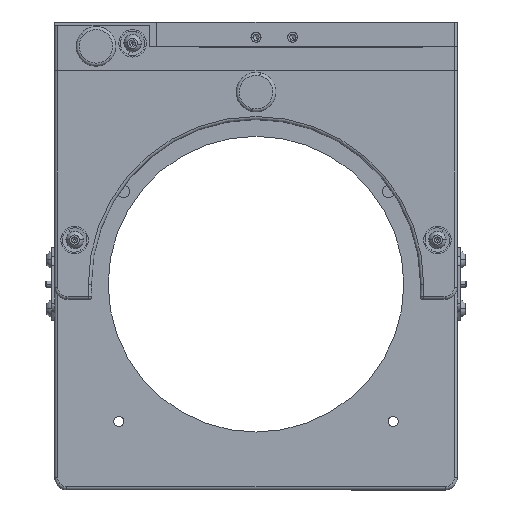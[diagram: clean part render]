
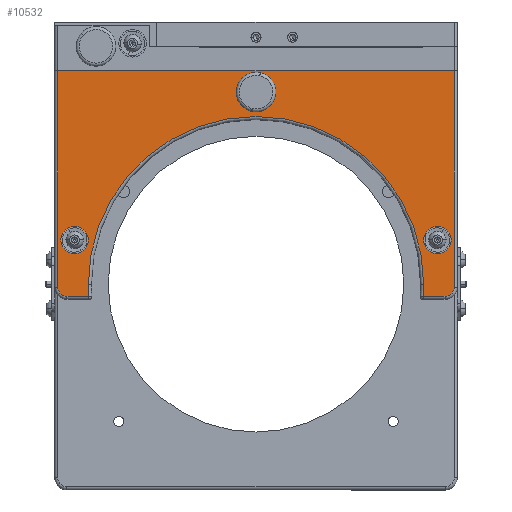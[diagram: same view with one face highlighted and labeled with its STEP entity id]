
A CAD part, front view. The second image highlights one B-rep face of the part: STEP entity #10532.
In plain terms, the highlighted planar face has unit normal (0, -1, 0).
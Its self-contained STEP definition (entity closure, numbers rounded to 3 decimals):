
#259 = DIRECTION ( 'NONE',  ( 0., -1., 0. ) ) ;
#343 = VECTOR ( 'NONE', #15316, 1000. ) ;
#349 = CARTESIAN_POINT ( 'NONE',  ( 60.922, -13.405, -84.393 ) ) ;
#425 = CIRCLE ( 'NONE', #11921, 55. ) ;
#540 = CARTESIAN_POINT ( 'NONE',  ( -54.846, -13.405, -84.393 ) ) ;
#779 = CARTESIAN_POINT ( 'NONE',  ( -1.078, -13.405, -80.393 ) ) ;
#1294 = DIRECTION ( 'NONE',  ( 0., -1., 0. ) ) ;
#1510 = CARTESIAN_POINT ( 'NONE',  ( 62.922, -13.405, -65.893 ) ) ;
#1607 = CARTESIAN_POINT ( 'NONE',  ( -56.078, -13.405, -80.393 ) ) ;
#1638 = CIRCLE ( 'NONE', #23333, 3. ) ;
#2095 = EDGE_CURVE ( 'NONE', #19650, #22156, #8395, .T. ) ;
#2133 = CARTESIAN_POINT ( 'NONE',  ( 63.922, -13.405, -81.393 ) ) ;
#2162 = EDGE_CURVE ( 'NONE', #24219, #6108, #2556, .T. ) ;
#2222 = CARTESIAN_POINT ( 'NONE',  ( 53.776, -13.405, -84.393 ) ) ;
#2311 = DIRECTION ( 'NONE',  ( 1., 0., 0. ) ) ;
#2556 = CIRCLE ( 'NONE', #14636, 4.5 ) ;
#2649 = EDGE_CURVE ( 'NONE', #6108, #24219, #21695, .T. ) ;
#2659 = DIRECTION ( 'NONE',  ( 0., 1., 0. ) ) ;
#2899 = CIRCLE ( 'NONE', #8097, 4.5 ) ;
#3055 = EDGE_LOOP ( 'NONE', ( #6800, #21694, #18617, #7367, #21841, #21663, #17561, #5252, #5986, #22710 ) ) ;
#3140 = ORIENTED_EDGE ( 'NONE', *, *, #2649, .F. ) ;
#3847 = EDGE_CURVE ( 'NONE', #6339, #10008, #2899, .T. ) ;
#3994 = CARTESIAN_POINT ( 'NONE',  ( 58.422, -13.405, -65.893 ) ) ;
#4509 = DIRECTION ( 'NONE',  ( -1., 0., 0. ) ) ;
#4683 = DIRECTION ( 'NONE',  ( 0., -1., 0. ) ) ;
#4873 = CARTESIAN_POINT ( 'NONE',  ( 60.922, -13.405, -84.393 ) ) ;
#4886 = AXIS2_PLACEMENT_3D ( 'NONE', #7450, #5481, #13091 ) ;
#5202 = EDGE_LOOP ( 'NONE', ( #7194, #7067 ) ) ;
#5252 = ORIENTED_EDGE ( 'NONE', *, *, #2095, .T. ) ;
#5481 = DIRECTION ( 'NONE',  ( 0., -1., 0. ) ) ;
#5548 = AXIS2_PLACEMENT_3D ( 'NONE', #7490, #20603, #18851 ) ;
#5650 = VERTEX_POINT ( 'NONE', #1607 ) ;
#5739 = DIRECTION ( 'NONE',  ( 0., -1., 0. ) ) ;
#5986 = ORIENTED_EDGE ( 'NONE', *, *, #22512, .T. ) ;
#6092 = DIRECTION ( 'NONE',  ( -1., 0., 0. ) ) ;
#6108 = VERTEX_POINT ( 'NONE', #23304 ) ;
#6120 = DIRECTION ( 'NONE',  ( 0., 1., 0. ) ) ;
#6210 = CARTESIAN_POINT ( 'NONE',  ( 63.922, -13.405, -10.393 ) ) ;
#6339 = VERTEX_POINT ( 'NONE', #1510 ) ;
#6380 = CIRCLE ( 'NONE', #5548, 4.5 ) ;
#6487 = CARTESIAN_POINT ( 'NONE',  ( -63.078, -13.405, -81.393 ) ) ;
#6605 = EDGE_CURVE ( 'NONE', #9808, #12868, #15639, .T. ) ;
#6675 = FACE_BOUND ( 'NONE', #8994, .T. ) ;
#6800 = ORIENTED_EDGE ( 'NONE', *, *, #17306, .T. ) ;
#7067 = ORIENTED_EDGE ( 'NONE', *, *, #3847, .F. ) ;
#7186 = VERTEX_POINT ( 'NONE', #21642 ) ;
#7194 = ORIENTED_EDGE ( 'NONE', *, *, #16107, .F. ) ;
#7367 = ORIENTED_EDGE ( 'NONE', *, *, #22181, .T. ) ;
#7450 = CARTESIAN_POINT ( 'NONE',  ( 58.422, -13.405, -65.893 ) ) ;
#7490 = CARTESIAN_POINT ( 'NONE',  ( -60.578, -13.405, -65.893 ) ) ;
#7745 = DIRECTION ( 'NONE',  ( 0., -1., 0. ) ) ;
#7925 = DIRECTION ( 'NONE',  ( -1., 0., 0. ) ) ;
#8050 = CARTESIAN_POINT ( 'NONE',  ( -66.078, -13.405, -81.393 ) ) ;
#8097 = AXIS2_PLACEMENT_3D ( 'NONE', #3994, #259, #7925 ) ;
#8328 = ORIENTED_EDGE ( 'NONE', *, *, #19917, .F. ) ;
#8395 = LINE ( 'NONE', #22490, #17743 ) ;
#8569 = LINE ( 'NONE', #6210, #19103 ) ;
#8734 = FACE_OUTER_BOUND ( 'NONE', #3055, .T. ) ;
#8970 = CARTESIAN_POINT ( 'NONE',  ( -56.078, -13.405, -65.893 ) ) ;
#8994 = EDGE_LOOP ( 'NONE', ( #12715, #8328 ) ) ;
#9048 = DIRECTION ( 'NONE',  ( -1., 0., 0. ) ) ;
#9106 = CARTESIAN_POINT ( 'NONE',  ( 53.922, -13.405, -80.393 ) ) ;
#9282 = DIRECTION ( 'NONE',  ( -1., 0., 0. ) ) ;
#9406 = DIRECTION ( 'NONE',  ( -1., 0., 0. ) ) ;
#9487 = VECTOR ( 'NONE', #18958, 1000. ) ;
#9808 = VERTEX_POINT ( 'NONE', #4873 ) ;
#10008 = VERTEX_POINT ( 'NONE', #11256 ) ;
#10532 = ADVANCED_FACE ( 'NONE', ( #15753, #6675, #21054, #8734 ), #11303, .T. ) ;
#11115 = VERTEX_POINT ( 'NONE', #15557 ) ;
#11256 = CARTESIAN_POINT ( 'NONE',  ( 53.922, -13.405, -65.893 ) ) ;
#11264 = AXIS2_PLACEMENT_3D ( 'NONE', #23087, #6120, #17232 ) ;
#11303 = PLANE ( 'NONE',  #16320 ) ;
#11564 = LINE ( 'NONE', #540, #21231 ) ;
#11583 = CARTESIAN_POINT ( 'NONE',  ( -1.078, -13.405, -17.393 ) ) ;
#11605 = DIRECTION ( 'NONE',  ( 0., -1., 0. ) ) ;
#11743 = CIRCLE ( 'NONE', #11264, 55. ) ;
#11921 = AXIS2_PLACEMENT_3D ( 'NONE', #22998, #21031, #15433 ) ;
#12471 = ORIENTED_EDGE ( 'NONE', *, *, #2162, .F. ) ;
#12480 = VERTEX_POINT ( 'NONE', #8970 ) ;
#12503 = CARTESIAN_POINT ( 'NONE',  ( -55.933, -13.405, -84.393 ) ) ;
#12621 = CIRCLE ( 'NONE', #21633, 4.5 ) ;
#12715 = ORIENTED_EDGE ( 'NONE', *, *, #23933, .F. ) ;
#12868 = VERTEX_POINT ( 'NONE', #2133 ) ;
#13091 = DIRECTION ( 'NONE',  ( -1., 0., 0. ) ) ;
#13399 = CARTESIAN_POINT ( 'NONE',  ( -66.078, -13.405, -10.393 ) ) ;
#13605 = DIRECTION ( 'NONE',  ( -1., 0., 0. ) ) ;
#13659 = DIRECTION ( 'NONE',  ( 0., 0., 1. ) ) ;
#13870 = EDGE_CURVE ( 'NONE', #12868, #19650, #8569, .T. ) ;
#14002 = CARTESIAN_POINT ( 'NONE',  ( -5.578, -13.405, -17.393 ) ) ;
#14073 = VERTEX_POINT ( 'NONE', #12503 ) ;
#14138 = CARTESIAN_POINT ( 'NONE',  ( 63.922, -13.405, -10.393 ) ) ;
#14417 = LINE ( 'NONE', #349, #9487 ) ;
#14636 = AXIS2_PLACEMENT_3D ( 'NONE', #11583, #7745, #6092 ) ;
#14769 = EDGE_CURVE ( 'NONE', #5650, #22468, #11743, .T. ) ;
#15316 = DIRECTION ( 'NONE',  ( 0., 0., -1. ) ) ;
#15433 = DIRECTION ( 'NONE',  ( -1., 0., 0. ) ) ;
#15464 = DIRECTION ( 'NONE',  ( 1., 0., 0. ) ) ;
#15557 = CARTESIAN_POINT ( 'NONE',  ( -65.078, -13.405, -65.893 ) ) ;
#15639 = CIRCLE ( 'NONE', #22577, 3. ) ;
#15753 = FACE_BOUND ( 'NONE', #23158, .T. ) ;
#16107 = EDGE_CURVE ( 'NONE', #10008, #6339, #20720, .T. ) ;
#16320 = AXIS2_PLACEMENT_3D ( 'NONE', #16769, #5739, #9282 ) ;
#16364 = CARTESIAN_POINT ( 'NONE',  ( 60.922, -13.405, -81.393 ) ) ;
#16769 = CARTESIAN_POINT ( 'NONE',  ( -1.078, -13.405, -85.393 ) ) ;
#17111 = CARTESIAN_POINT ( 'NONE',  ( -1.078, -13.405, -17.393 ) ) ;
#17232 = DIRECTION ( 'NONE',  ( -1., 0., 0. ) ) ;
#17306 = EDGE_CURVE ( 'NONE', #7186, #14073, #11564, .T. ) ;
#17561 = ORIENTED_EDGE ( 'NONE', *, *, #13870, .T. ) ;
#17743 = VECTOR ( 'NONE', #9406, 1000. ) ;
#17764 = DIRECTION ( 'NONE',  ( -1., 0., 0. ) ) ;
#17879 = EDGE_CURVE ( 'NONE', #19682, #7186, #1638, .T. ) ;
#18575 = EDGE_CURVE ( 'NONE', #14073, #5650, #22673, .T. ) ;
#18617 = ORIENTED_EDGE ( 'NONE', *, *, #14769, .T. ) ;
#18851 = DIRECTION ( 'NONE',  ( 1., 0., 0. ) ) ;
#18958 = DIRECTION ( 'NONE',  ( 1., 0., 0. ) ) ;
#18969 = EDGE_CURVE ( 'NONE', #22204, #9808, #14417, .T. ) ;
#19077 = DIRECTION ( 'NONE',  ( 0., -1., 0. ) ) ;
#19103 = VECTOR ( 'NONE', #13659, 1000. ) ;
#19198 = CARTESIAN_POINT ( 'NONE',  ( -60.578, -13.405, -65.893 ) ) ;
#19650 = VERTEX_POINT ( 'NONE', #14138 ) ;
#19682 = VERTEX_POINT ( 'NONE', #23760 ) ;
#19917 = EDGE_CURVE ( 'NONE', #12480, #11115, #12621, .T. ) ;
#20603 = DIRECTION ( 'NONE',  ( 0., -1., 0. ) ) ;
#20720 = CIRCLE ( 'NONE', #4886, 4.5 ) ;
#21031 = DIRECTION ( 'NONE',  ( 0., 1., 0. ) ) ;
#21054 = FACE_BOUND ( 'NONE', #5202, .T. ) ;
#21231 = VECTOR ( 'NONE', #15464, 1000. ) ;
#21633 = AXIS2_PLACEMENT_3D ( 'NONE', #19198, #11605, #2311 ) ;
#21642 = CARTESIAN_POINT ( 'NONE',  ( -63.078, -13.405, -84.393 ) ) ;
#21663 = ORIENTED_EDGE ( 'NONE', *, *, #6605, .T. ) ;
#21694 = ORIENTED_EDGE ( 'NONE', *, *, #18575, .T. ) ;
#21695 = CIRCLE ( 'NONE', #22675, 4.5 ) ;
#21699 = LINE ( 'NONE', #8050, #343 ) ;
#21841 = ORIENTED_EDGE ( 'NONE', *, *, #18969, .T. ) ;
#22156 = VERTEX_POINT ( 'NONE', #13399 ) ;
#22181 = EDGE_CURVE ( 'NONE', #22468, #22204, #425, .T. ) ;
#22204 = VERTEX_POINT ( 'NONE', #2222 ) ;
#22468 = VERTEX_POINT ( 'NONE', #9106 ) ;
#22490 = CARTESIAN_POINT ( 'NONE',  ( 64.922, -13.405, -10.393 ) ) ;
#22512 = EDGE_CURVE ( 'NONE', #22156, #19682, #21699, .T. ) ;
#22577 = AXIS2_PLACEMENT_3D ( 'NONE', #16364, #1294, #9048 ) ;
#22673 = CIRCLE ( 'NONE', #22712, 55. ) ;
#22675 = AXIS2_PLACEMENT_3D ( 'NONE', #17111, #19077, #13605 ) ;
#22710 = ORIENTED_EDGE ( 'NONE', *, *, #17879, .T. ) ;
#22712 = AXIS2_PLACEMENT_3D ( 'NONE', #779, #2659, #4509 ) ;
#22998 = CARTESIAN_POINT ( 'NONE',  ( -1.078, -13.405, -80.393 ) ) ;
#23087 = CARTESIAN_POINT ( 'NONE',  ( -1.078, -13.405, -80.393 ) ) ;
#23158 = EDGE_LOOP ( 'NONE', ( #3140, #12471 ) ) ;
#23304 = CARTESIAN_POINT ( 'NONE',  ( 3.422, -13.405, -17.393 ) ) ;
#23333 = AXIS2_PLACEMENT_3D ( 'NONE', #6487, #4683, #17764 ) ;
#23760 = CARTESIAN_POINT ( 'NONE',  ( -66.078, -13.405, -81.393 ) ) ;
#23933 = EDGE_CURVE ( 'NONE', #11115, #12480, #6380, .T. ) ;
#24219 = VERTEX_POINT ( 'NONE', #14002 ) ;
